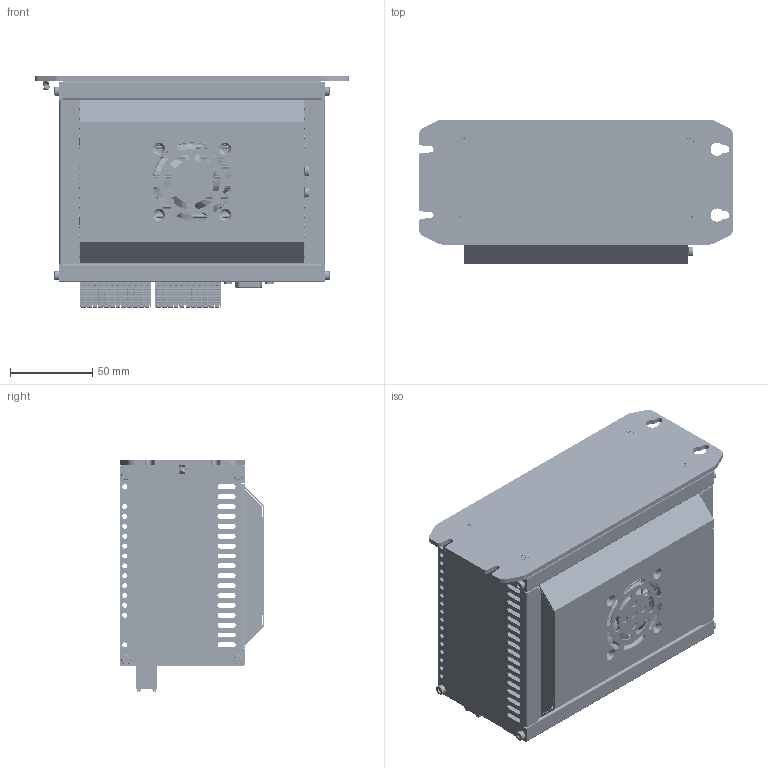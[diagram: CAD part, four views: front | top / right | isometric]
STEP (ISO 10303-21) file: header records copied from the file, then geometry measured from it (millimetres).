
FILE_DESCRIPTION((''),'2;1');
FILE_NAME('00000-ALL_ASM','2025-04-01T11:24:21',('admin'),(''),'CREO PARAMETRIC BY PTC INC, 2021063','CREO PARAMETRIC BY PTC INC, 2021063','');
FILE_SCHEMA(('CONFIG_CONTROL_DESIGN','SHAPE_APPEARANCE_LAYERS_GROUPS'));
Products named in the file (267): PCB0; 00; JL15EDGRHC-3_5-2X9P_1; ASM0001_ASM_1_ASM; 12PIN_ASM; 11PIN; 10PIN; DB; PCB02_ASM; HDMI-1PORT-H16P2-DIP-SIDERA-A_1; BUTTON_LED-MARK-RA-_X2_03A6_X_1; SV-LED3P-1X3P2-SMD-HTL-A1_COM_1; DIANYUANCHAZUO_1__STP_1; INDUCTANCE_SMD_TMPC0604_1; 11-118333_100; 4-143904_100; 9-378306_100; 3-392436_100; 2-396757_100; 7-403880_100; 12-406708_100; 8-412497_100; 10-452246_100; 6-659725_100; 5-682503_100; 1-718263_100; HDR-DIP-6X2-2P54-STR-A0-22100_1_ASM; 39_100; 31_100; 28_100; 36_100; 20-125388_100; 32_100; 3-138155_100; 11-146688_100; 6-163716_100; 22-287666_100; 14-368362_100; 40_100; 16-372634_100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
Assembly tree (332 placements, depth 11):
  00000-ALL_ASM
    00_ASM
      PCB02_ASM
        PCB0
        00
        12PIN_ASM
          ASM0001_ASM_1_ASM
            JL15EDGRHC-3_5-2X9P_1
        11PIN
        10PIN
        DB
      XB-6-3_ASM
        S757-10-ASM_1_2_ASM
          HDMI-1PORT-H16P2-DIP-SIDERA-A_1
          BUTTON_LED-MARK-RA-_X2_03A6_X_1
          SV-LED3P-1X3P2-SMD-HTL-A1_COM_1
          DIANYUANCHAZUO_1__STP_1
          INDUCTANCE_SMD_TMPC0604_1  x3
          HDR-DIP-6X2-2P54-STR-A0-22100_1_ASM
            11-118333_100
            4-143904_100
            9-378306_100
            3-392436_100
            2-396757_100
            7-403880_100
            12-406708_100
            8-412497_100
            10-452246_100
            6-659725_100
            5-682503_100
            1-718263_100
          USBX2-33-FAMALE-CURL-H16-RA-A_1_ASM
            39_100
            31_100
            28_100
            36_100
            20-125388_100
            32_100
            3-138155_100
            11-146688_100
            6-163716_100
            22-287666_100
            14-368362_100
            40_100
            16-372634_100
            37_100
            18-388185_100
            9-405277_100
            33_100
            8-416675_100
            19-419557_100
            30_100
            2-438104_100
            38_100
            1-443728_100
            5-445161_100
            43_100
            7-574776_100
            23-593294_100
            34_100
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Bounding box: 191 x 87.65 x 140.35 mm (x, y, z)
Volume: 667758.7 mm3; surface area: 583435.6 mm2
Topology: 309 solids, 360 shells, 37666 faces, 103154 edges, 66759 vertices
Faces by surface type: plane 27176, cylinder 7017, extrusion 1647, bspline 634, torus 479, cone 424, sphere 285, revolution 4
Entity records: 1339425 total; most frequent: CARTESIAN_POINT 243710, ORIENTED_EDGE 176611, DIRECTION 157873, EDGE_CURVE 88457, VECTOR 70895, LINE 69665, PRESENTATION_STYLE_ASSIGNMENT 69253, STYLED_ITEM 67557
